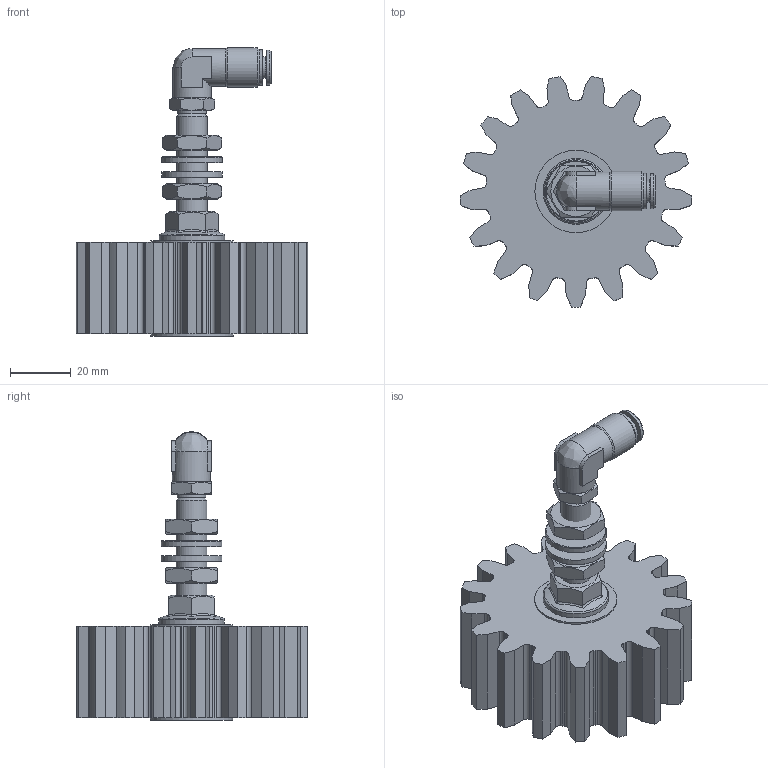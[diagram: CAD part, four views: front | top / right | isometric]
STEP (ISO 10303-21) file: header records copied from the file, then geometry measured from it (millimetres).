
FILE_DESCRIPTION (( 'STEP AP214' ), '1' );
FILE_NAME ('012_13_04_30_17AZ.STEP', '2026-04-01T13:56:16', ( '' ), ( '' ), 'SwSTEP 2.0', 'SolidWorks 2022', '' );
FILE_SCHEMA (( 'AUTOMOTIVE_DESIGN' ));
Length unit declared in the file: millimetre
Products named in the file (13): H202225_HDS_022_6_M6_28.09.22; 012_06_Senkschraube; Schmierzahnrad_04_30_17G; Mutter_M10; OR 7.2X1.9; DR6-C_HDX_25.07.16; H214667-HDS_1-8_M6X1Z; U_Scheibe_10.5; Achse_M10_1_Schmierzahnrad; 012_13_04_30_17AZ; 12012_06_01_Scheibe-CRS-VA_27.SLDASM; R11155-N2
Assembly tree (14 placements, depth 4):
  012_13_04_30_17AZ
    Achse_M10_1_Schmierzahnrad
    012_06_Senkschraube
    12012_06_01_Scheibe-CRS-VA_27.SLDASM
    Mutter_M10  x2
    U_Scheibe_10.5  x2
    H202225_HDS_022_6_M6_28.09.22
      R11155-N2
      DR6-C_HDX_25.07.16
      H214667-HDS_1-8_M6X1Z
        H214667-HDS_1-8_M6X1Z
        OR 7.2X1.9
    Schmierzahnrad_04_30_17G
Bounding box: 75.97 x 75.69 x 94.7 mm (x, y, z)
Volume: 119374.6 mm3; surface area: 31703.6 mm2
Topology: 12 solids, 12 shells, 671 faces, 1800 edges, 1190 vertices
Faces by surface type: plane 431, bspline 95, cylinder 91, cone 50, torus 4
Full cylindrical faces by diameter (mm): 2 x1, 4 x1, 4.6 x1, 5 x1, 5.5 x1, 6 x2, 6.2 x1, 6.3 x1, 7.2 x1, 8.5 x2, 9 x2, 9.5 x1, 9.9 x1, 10 x2, 10.1 x2, 10.3 x1, 10.5 x2, 11.5 x1, 11.7 x1, 12.5 x2, 13 x1, 20 x2, 21.6 x1, 27 x2
Entity records: 28393 total; most frequent: CARTESIAN_POINT 11502, ORIENTED_EDGE 3290, DIRECTION 2741, EDGE_CURVE 1645, LINE 1143, VECTOR 1143, VERTEX_POINT 1122, AXIS2_PLACEMENT_3D 799
